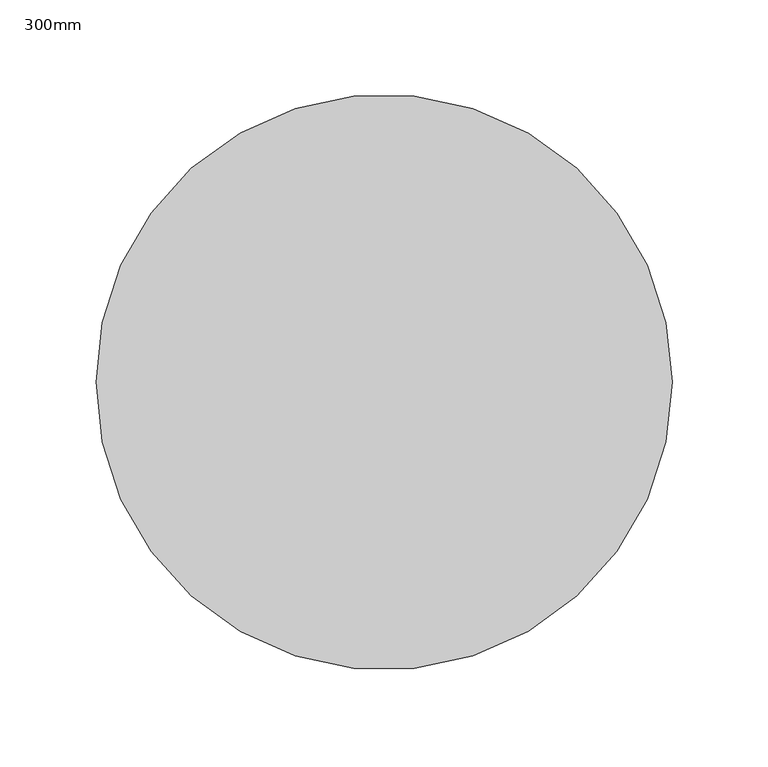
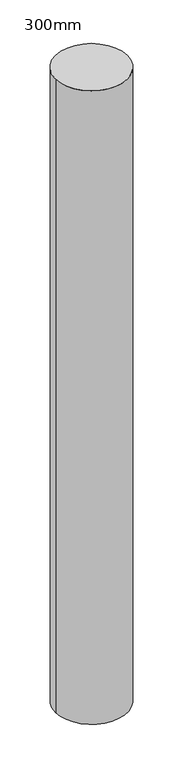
"""IFC4 building model written with IfcOpenShell, lengths in millimetres: column geometry, M_Betonový kulatý sloup : 300mm."""

import ifcopenshell
import ifcopenshell.guid

model = None  # the IFC model being written
_history = None  # IfcOwnerHistory: only IFC2X3 demands one
_inside = {}  # id of a spatial element -> (the spatial element, [elements in it])
_under = {}  # id of a project, library or spatial element -> (it, [spatial elements below it])
_declared = {}  # id of a project -> (the project, [libraries it declares])
_typed = {}  # id of a type object -> (the type object, [elements of that type])
_made_of = {}  # id of a material, layer set ... -> (it, [elements and type objects made of it])


def new_model(schema):
    """Start an empty IFC model of exactly this schema.

    Asked for "IFC4X3", IfcOpenShell would pick the latest addendum, in which some entities
    have other attributes; the version numbers below select the first issue.
    IFC2X3 requires an IfcOwnerHistory on every rooted entity: one is made here for all.
    """
    global model, _history
    if schema == "IFC4X3":
        model = ifcopenshell.file(schema_version=(4, 3, 0, 0))
    else:
        model = ifcopenshell.file(schema=schema)
    _inside.clear()
    _under.clear()
    _declared.clear()
    _typed.clear()
    _made_of.clear()
    _history = None
    if model.schema == "IFC2X3":
        org = make("IfcOrganization", Name="unknown")
        user = make(
            "IfcPersonAndOrganization",
            ThePerson=make("IfcPerson", FamilyName="unknown"),
            TheOrganization=org,
        )
        app = make(
            "IfcApplication",
            ApplicationDeveloper=org,
            Version="unknown",
            ApplicationFullName="unknown",
            ApplicationIdentifier="unknown",
        )
        _history = make(
            "IfcOwnerHistory",
            OwningUser=user,
            OwningApplication=app,
            ChangeAction="ADDED",
            CreationDate=0,
        )
    return model


def make(cls, **values):
    """One entity of the class cls with the attributes given. An attribute that is None is left unset."""
    return model.create_entity(
        cls, **{name: value for name, value in values.items() if value is not None}
    )


def rooted(cls, **values):
    """An entity with a GlobalId (a new one), such as an element, a storey or a relation."""
    return make(cls, GlobalId=ifcopenshell.guid.new(), OwnerHistory=_history, **values)


def si_unit(unit_type, name, prefix=None):
    """IfcSIUnit, for example si_unit("LENGTHUNIT", "METRE", prefix="MILLI")."""
    return make("IfcSIUnit", UnitType=unit_type, Prefix=prefix, Name=name)


def assignment(units):
    """IfcUnitAssignment: the units of a project."""
    return None if units is None else make("IfcUnitAssignment", Units=units)


def point(xyz):
    """IfcCartesianPoint."""
    return None if xyz is None else make("IfcCartesianPoint", Coordinates=xyz)


def direction(xyz):
    """IfcDirection."""
    return None if xyz is None else make("IfcDirection", DirectionRatios=xyz)


def frame(location, z_axis=None, x_axis=None):
    """IfcAxis2Placement3D, a coordinate frame: its origin and axes. An axis left out is left unset."""
    return make(
        "IfcAxis2Placement3D",
        Location=point(location),
        Axis=direction(z_axis),
        RefDirection=direction(x_axis),
    )


def frame_2d(location, x_axis=None):
    """IfcAxis2Placement2D, a coordinate frame in the plane: its origin and x axis."""
    return make(
        "IfcAxis2Placement2D", Location=point(location), RefDirection=direction(x_axis)
    )


def origin():
    """The frame at (0, 0, 0) with its axes left unset."""
    return frame((0.0, 0.0, 0.0))


def origin_with_axes():
    """The frame at (0, 0, 0) with the z axis (0, 0, 1) and the x axis (1, 0, 0) written out."""
    return frame((0.0, 0.0, 0.0), z_axis=(0.0, 0.0, 1.0), x_axis=(1.0, 0.0, 0.0))


def origin_2d():
    """The frame at (0, 0) in the plane with its x axis left unset."""
    return frame_2d((0.0, 0.0))


def place(relative_to, where):
    """IfcLocalPlacement: puts the frame where relative to a parent placement (None: the world)."""
    return make(
        "IfcLocalPlacement", PlacementRelTo=relative_to, RelativePlacement=where
    )


def context(
    kind, dimensions, precision=None, world=None, true_north=None, identifier=None
):
    """IfcGeometricRepresentationContext, for example the 3D "Model" context."""
    return make(
        "IfcGeometricRepresentationContext",
        ContextIdentifier=identifier,
        ContextType=kind,
        CoordinateSpaceDimension=dimensions,
        Precision=precision,
        WorldCoordinateSystem=world,
        TrueNorth=true_north,
    )


def project(units=None, contexts=None):
    """IfcProject with its units and contexts."""
    return rooted(
        "IfcProject",
        Name="project",
        RepresentationContexts=contexts,
        UnitsInContext=assignment(units),
    )


def spatial(cls, under=None, at=None, **own):
    """A site, building, storey or space (cls), placed at a placement, below another one or the project."""
    s = rooted(cls, ObjectPlacement=at, **own)
    if under is not None:
        _under.setdefault(under.id(), (under, []))[1].append(s)
    return s


def circle_curve(where, radius):
    """IfcCircle in the frame where."""
    return make("IfcCircle", Position=where, Radius=radius)


def trimmed(basis, trim1, trim2, sense, master):
    """IfcTrimmedCurve: the piece of a basis curve between two trims."""
    return make(
        "IfcTrimmedCurve",
        BasisCurve=basis,
        Trim1=trim1,
        Trim2=trim2,
        SenseAgreement=sense,
        MasterRepresentation=master,
    )


def segment(curve, same_sense, transition):
    """IfcCompositeCurveSegment."""
    return make(
        "IfcCompositeCurveSegment",
        Transition=transition,
        SameSense=same_sense,
        ParentCurve=curve,
    )


def composite_curve(segments, self_intersect=None):
    """IfcCompositeCurve: segments joined end to end."""
    return make("IfcCompositeCurve", Segments=segments, SelfIntersect=self_intersect)


def outline(outer, holes=None, kind="AREA"):
    """IfcArbitraryClosedProfileDef: a profile drawn as a closed curve; with holes, ...WithVoids."""
    if holes is None:
        return make("IfcArbitraryClosedProfileDef", ProfileType=kind, OuterCurve=outer)
    return make(
        "IfcArbitraryProfileDefWithVoids",
        ProfileType=kind,
        OuterCurve=outer,
        InnerCurves=holes,
    )


def extrude(swept, where, along, depth):
    """IfcExtrudedAreaSolid: the profile swept, set in the frame where, extruded along a direction by depth."""
    return make(
        "IfcExtrudedAreaSolid",
        SweptArea=swept,
        Position=where,
        ExtrudedDirection=direction(along),
        Depth=depth,
    )


def shape(context_of_items, identifier, shape_type, items):
    """IfcShapeRepresentation: the items that make up one representation, for example the "Body"."""
    return make(
        "IfcShapeRepresentation",
        ContextOfItems=context_of_items,
        RepresentationIdentifier=identifier,
        RepresentationType=shape_type,
        Items=items,
    )


def source(mapping_origin, context_of_items, identifier, shape_type, items):
    """IfcRepresentationMap: a shape defined once, which mapped items show again and again."""
    return make(
        "IfcRepresentationMap",
        MappingOrigin=mapping_origin,
        MappedRepresentation=shape(context_of_items, identifier, shape_type, items),
    )


def transform(
    local_origin,
    x_axis=None,
    y_axis=None,
    z_axis=None,
    scale=None,
    scale2=None,
    scale3=None,
    uniform=True,
):
    """IfcCartesianTransformationOperator3D, or its non-uniform kind. x_axis, y_axis, z_axis: its Axis1, 2, 3."""
    if uniform:
        return make(
            "IfcCartesianTransformationOperator3D",
            Axis1=direction(x_axis),
            Axis2=direction(y_axis),
            LocalOrigin=point(local_origin),
            Scale=scale,
            Axis3=direction(z_axis),
        )
    return make(
        "IfcCartesianTransformationOperator3DnonUniform",
        Axis1=direction(x_axis),
        Axis2=direction(y_axis),
        LocalOrigin=point(local_origin),
        Scale=scale,
        Axis3=direction(z_axis),
        Scale2=scale2,
        Scale3=scale3,
    )


def mapped(mapping_source, mapping_target):
    """IfcMappedItem: shows the shape of a source again, moved by a transform."""
    return make(
        "IfcMappedItem", MappingSource=mapping_source, MappingTarget=mapping_target
    )


def made_of(thing, what):
    """Note that an element or type object is made of a material, layer set ...; save() writes the relation."""
    if what is not None:
        _made_of.setdefault(what.id(), (what, []))[1].append(thing)
    return thing


def element(
    cls,
    number,
    at=None,
    inside=None,
    cuts=None,
    type_object=None,
    material=None,
    context=None,
    identifier="Body",
    shape_type=None,
    held_by="IfcProductDefinitionShape",
    body=None,
    shapes=None,
    **own,
):
    """One element of the class cls, such as IfcWall. Its Tag is "e" and its number.

    at: its placement. inside: the storey or other place that contains it. cuts: it is an
    opening in that element (IfcRelVoidsElement). A single representation is given by context,
    identifier, shape_type and body (its items); several are given by shapes. held_by: the class
    of the entity that holds the representations. save() writes the other relations.
    """
    e = rooted(cls, Tag="e%d" % number, ObjectPlacement=at, **own)
    if body is not None:
        shapes = [shape(context, identifier, shape_type, body)]
    if shapes is not None:
        e.Representation = make(held_by, Representations=shapes)
    if inside is not None:
        _inside.setdefault(inside.id(), (inside, []))[1].append(e)
    if cuts is not None:
        rooted(
            "IfcRelVoidsElement", RelatingBuildingElement=cuts, RelatedOpeningElement=e
        )
    if type_object is not None:
        _typed.setdefault(type_object.id(), (type_object, []))[1].append(e)
    return made_of(e, material)


def aggregate(whole, parts):
    """IfcRelAggregates: a whole, such as a stair, and the parts it consists of."""
    return rooted("IfcRelAggregates", RelatingObject=whole, RelatedObjects=parts)


def save(model, path):
    """Write the relations noted so far, then the file.

    IfcRelAggregates (storeys below a building ...), IfcRelContainedInSpatialStructure (elements
    in a storey), IfcRelDefinesByType, IfcRelAssociatesMaterial and IfcRelDeclares: one each for
    every whole, place, type object, material and project.
    """
    for whole, parts in _under.values():
        aggregate(whole, parts)
    for where, things in _inside.values():
        rooted(
            "IfcRelContainedInSpatialStructure",
            RelatedElements=things,
            RelatingStructure=where,
        )
    for kind, things in _typed.values():
        rooted("IfcRelDefinesByType", RelatedObjects=things, RelatingType=kind)
    for what, things in _made_of.values():
        rooted("IfcRelAssociatesMaterial", RelatedObjects=things, RelatingMaterial=what)
    for by, libraries in _declared.values():
        rooted("IfcRelDeclares", RelatingContext=by, RelatedDefinitions=libraries)
    model.write(path)


def column_300mm_4ed90d00(model_context):
    return source(origin(), model_context, "Body", "SweptSolid", [
        extrude(outline(composite_curve([segment(trimmed(circle_curve(origin_2d(), 150.0), [point((-150.0, 0.0))], [point((150.0, 0.0))], False, "CARTESIAN"), True, "CONTINUOUS"), segment(trimmed(circle_curve(origin_2d(), 150.0), [point((150.0, 0.0))], [point((-150.0, 0.0))], False, "CARTESIAN"), True, "CONTINUOUS")], self_intersect=False)), origin_with_axes(), (0.0, 0.0, 1.0), 2800.0),
    ])


if __name__ == "__main__":
    model = new_model("IFC4")
    model_context = context("Model", 3, world=origin())
    ifc_project = project(units=[si_unit("LENGTHUNIT", "METRE", prefix="MILLI")], contexts=[model_context])
    site = spatial("IfcSite", under=ifc_project)
    building = spatial("IfcBuilding", under=site)
    placement = place(None, origin())
    column_300mm_shape = column_300mm_4ed90d00(model_context)
    element("IfcColumn", 1, ObjectType="M_Betonový kulatý sloup : 300mm", at=placement, inside=building, context=model_context, shape_type="MappedRepresentation", body=[
        mapped(column_300mm_shape, transform((0.0, 0.0, 0.0), x_axis=(1.0, 0.0, 0.0), y_axis=(0.0, 1.0, 0.0), z_axis=(0.0, 0.0, 1.0))),
    ])
    save(model, "model.ifc")
